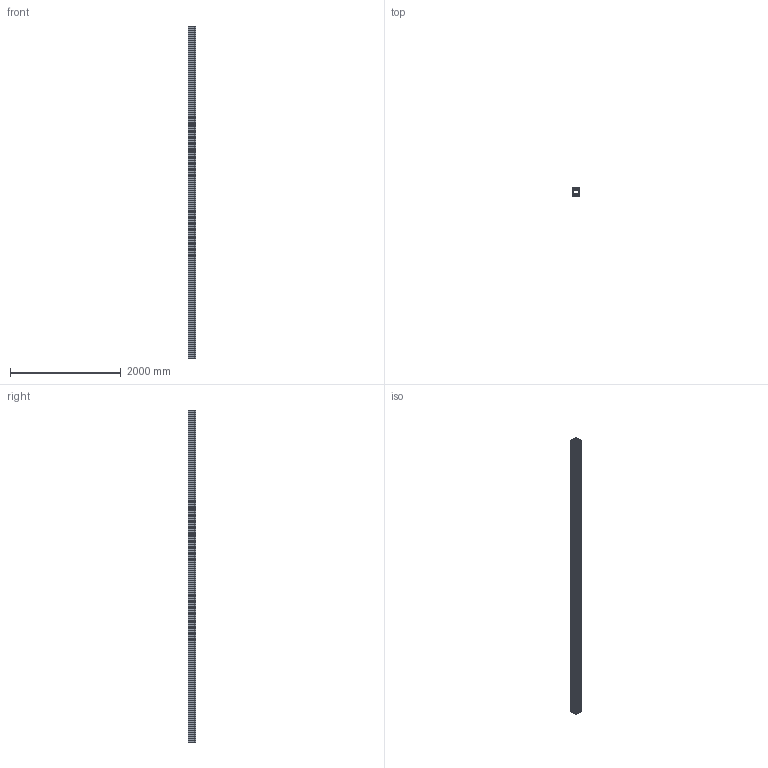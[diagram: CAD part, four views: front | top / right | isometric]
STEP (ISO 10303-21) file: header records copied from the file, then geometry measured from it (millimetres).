
FILE_DESCRIPTION (( 'STEP AP214' ), '1' );
FILE_NAME ('135x135 Slot 10.STEP', '2017-08-11T00:14:50', ( 'Ahmed' ), ( '' ), 'SwSTEP 2.0', 'SolidWorks 2016', '' );
FILE_SCHEMA (( 'AUTOMOTIVE_DESIGN' ));
Length unit declared in the file: millimetre
Products named in the file (2): 135x135 Slot 10
Bounding box: 135 x 135 x 6000 mm (x, y, z)
Volume: 26819739 mm3; surface area: 17218596.3 mm2
Topology: 1 solids, 1 shells, 1004 faces, 2985 edges, 1990 vertices
Faces by surface type: plane 732, cylinder 246, bspline 26
Entity records: 35350 total; most frequent: CARTESIAN_POINT 7959, ORIENTED_EDGE 5970, DIRECTION 5385, EDGE_CURVE 2985, LINE 2441, VECTOR 2441, VERTEX_POINT 1990, AXIS2_PLACEMENT_3D 1472
